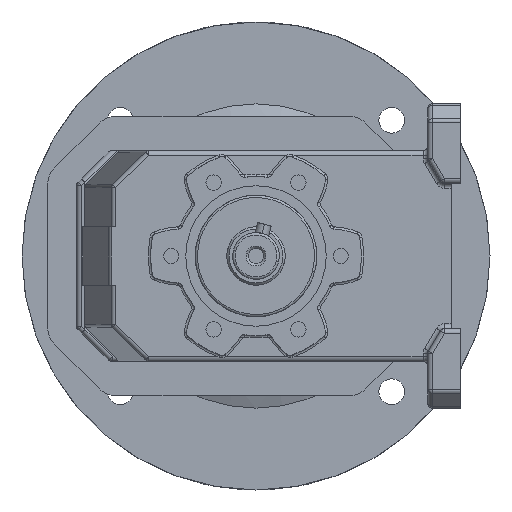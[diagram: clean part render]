
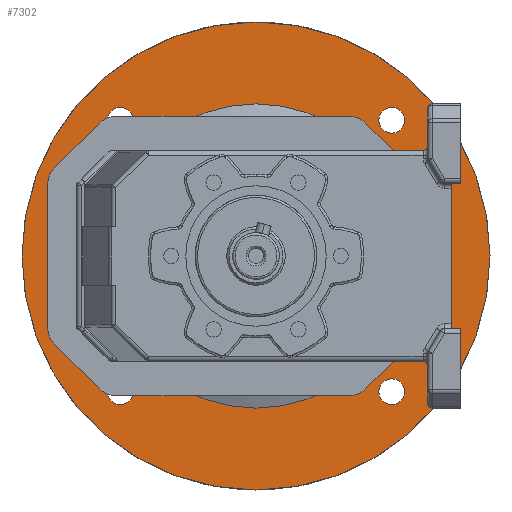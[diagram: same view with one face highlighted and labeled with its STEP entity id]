
A CAD part, left-side view. The second image highlights one B-rep face of the part: STEP entity #7302.
In plain terms, the highlighted planar face has unit normal (-1, 0, 0) as drawn and (0, 1, 0) by its records, which use the part's own axes.
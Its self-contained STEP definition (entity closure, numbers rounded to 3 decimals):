
#150 = FACE_BOUND ( 'NONE', #12729, .T. ) ;
#187 = CIRCLE ( 'NONE', #1056, 65. ) ;
#191 = CARTESIAN_POINT ( 'NONE',  ( -100., 34.115, 0. ) ) ;
#249 = EDGE_LOOP ( 'NONE', ( #5300, #8836 ) ) ;
#618 = EDGE_CURVE ( 'NONE', #8446, #10873, #5231, .T. ) ;
#746 = AXIS2_PLACEMENT_3D ( 'NONE', #3066, #11002, #4206 ) ;
#774 = CARTESIAN_POINT ( 'NONE',  ( 100., 34.115, 0. ) ) ;
#807 = CARTESIAN_POINT ( 'NONE',  ( -57.983, 34.115, 57.983 ) ) ;
#828 = DIRECTION ( 'NONE',  ( 1., 0., 0. ) ) ;
#875 = VERTEX_POINT ( 'NONE', #5192 ) ;
#924 = DIRECTION ( 'NONE',  ( 1., 0., 0. ) ) ;
#959 = AXIS2_PLACEMENT_3D ( 'NONE', #6603, #4294, #828 ) ;
#1056 = AXIS2_PLACEMENT_3D ( 'NONE', #14209, #13751, #12618 ) ;
#1208 = CIRCLE ( 'NONE', #6999, 5.5 ) ;
#1506 = DIRECTION ( 'NONE',  ( 0., -1., 0. ) ) ;
#1641 = DIRECTION ( 'NONE',  ( 0., -1., 0. ) ) ;
#1722 = CARTESIAN_POINT ( 'NONE',  ( 65., 34.115, 0. ) ) ;
#1760 = VERTEX_POINT ( 'NONE', #7069 ) ;
#1887 = CARTESIAN_POINT ( 'NONE',  ( 57.983, 34.115, -57.983 ) ) ;
#1943 = DIRECTION ( 'NONE',  ( 1., 0., 0. ) ) ;
#2484 = DIRECTION ( 'NONE',  ( 0., 1., 0. ) ) ;
#2496 = EDGE_CURVE ( 'NONE', #1760, #6900, #187, .T. ) ;
#2652 = VERTEX_POINT ( 'NONE', #11129 ) ;
#2683 = ORIENTED_EDGE ( 'NONE', *, *, #14371, .T. ) ;
#2798 = AXIS2_PLACEMENT_3D ( 'NONE', #9280, #2484, #10412 ) ;
#3037 = DIRECTION ( 'NONE',  ( 1., 0., 0. ) ) ;
#3053 = DIRECTION ( 'NONE',  ( 0., -1., 0. ) ) ;
#3066 = CARTESIAN_POINT ( 'NONE',  ( 0., 34.115, 0. ) ) ;
#3126 = EDGE_CURVE ( 'NONE', #10373, #4010, #10111, .T. ) ;
#3182 = FACE_BOUND ( 'NONE', #13060, .T. ) ;
#3268 = CARTESIAN_POINT ( 'NONE',  ( 63.483, 34.115, -57.983 ) ) ;
#3278 = EDGE_CURVE ( 'NONE', #4584, #875, #5326, .T. ) ;
#3693 = CIRCLE ( 'NONE', #7003, 5.5 ) ;
#3834 = ORIENTED_EDGE ( 'NONE', *, *, #9747, .T. ) ;
#3961 = EDGE_CURVE ( 'NONE', #8109, #9395, #1208, .T. ) ;
#4010 = VERTEX_POINT ( 'NONE', #12212 ) ;
#4189 = DIRECTION ( 'NONE',  ( 0., -1., 0. ) ) ;
#4206 = DIRECTION ( 'NONE',  ( -1., 0., 0. ) ) ;
#4294 = DIRECTION ( 'NONE',  ( 0., -1., 0. ) ) ;
#4557 = ORIENTED_EDGE ( 'NONE', *, *, #3126, .T. ) ;
#4584 = VERTEX_POINT ( 'NONE', #5470 ) ;
#4750 = EDGE_LOOP ( 'NONE', ( #10331, #12894 ) ) ;
#4781 = EDGE_CURVE ( 'NONE', #6900, #1760, #9996, .T. ) ;
#5192 = CARTESIAN_POINT ( 'NONE',  ( 52.483, 34.115, 57.983 ) ) ;
#5218 = CIRCLE ( 'NONE', #8486, 5.5 ) ;
#5231 = CIRCLE ( 'NONE', #13709, 100. ) ;
#5300 = ORIENTED_EDGE ( 'NONE', *, *, #3961, .T. ) ;
#5326 = CIRCLE ( 'NONE', #12349, 5.5 ) ;
#5361 = CARTESIAN_POINT ( 'NONE',  ( -63.483, 34.115, -57.983 ) ) ;
#5470 = CARTESIAN_POINT ( 'NONE',  ( 63.483, 34.115, 57.983 ) ) ;
#6146 = AXIS2_PLACEMENT_3D ( 'NONE', #807, #8757, #1943 ) ;
#6201 = FACE_BOUND ( 'NONE', #249, .T. ) ;
#6341 = CIRCLE ( 'NONE', #13029, 5.5 ) ;
#6577 = FACE_BOUND ( 'NONE', #14487, .T. ) ;
#6603 = CARTESIAN_POINT ( 'NONE',  ( -57.983, 34.115, -57.983 ) ) ;
#6710 = EDGE_LOOP ( 'NONE', ( #12550, #11374 ) ) ;
#6900 = VERTEX_POINT ( 'NONE', #1722 ) ;
#6999 = AXIS2_PLACEMENT_3D ( 'NONE', #9845, #3053, #10988 ) ;
#7003 = AXIS2_PLACEMENT_3D ( 'NONE', #8307, #1506, #9445 ) ;
#7006 = DIRECTION ( 'NONE',  ( 1., 0., 0. ) ) ;
#7069 = CARTESIAN_POINT ( 'NONE',  ( -65., 34.115, 0. ) ) ;
#7231 = CARTESIAN_POINT ( 'NONE',  ( 0., 34.115, 0. ) ) ;
#7302 = ADVANCED_FACE ( 'NONE', ( #3182, #6577, #6201, #150, #11846, #8876 ), #13667, .F. ) ;
#7508 = DIRECTION ( 'NONE',  ( 0., -1., 0. ) ) ;
#7917 = EDGE_CURVE ( 'NONE', #2652, #10417, #3693, .T. ) ;
#8109 = VERTEX_POINT ( 'NONE', #13059 ) ;
#8152 = CARTESIAN_POINT ( 'NONE',  ( 57.983, 34.115, 57.983 ) ) ;
#8217 = DIRECTION ( 'NONE',  ( -1., 0., 0. ) ) ;
#8307 = CARTESIAN_POINT ( 'NONE',  ( 57.983, 34.115, -57.983 ) ) ;
#8436 = CARTESIAN_POINT ( 'NONE',  ( -57.983, 34.115, -57.983 ) ) ;
#8446 = VERTEX_POINT ( 'NONE', #191 ) ;
#8486 = AXIS2_PLACEMENT_3D ( 'NONE', #10977, #4189, #12110 ) ;
#8601 = CIRCLE ( 'NONE', #6146, 5.5 ) ;
#8709 = ORIENTED_EDGE ( 'NONE', *, *, #3278, .T. ) ;
#8757 = DIRECTION ( 'NONE',  ( 0., -1., 0. ) ) ;
#8836 = ORIENTED_EDGE ( 'NONE', *, *, #11369, .T. ) ;
#8876 = FACE_OUTER_BOUND ( 'NONE', #4750, .T. ) ;
#9182 = CIRCLE ( 'NONE', #746, 100. ) ;
#9280 = CARTESIAN_POINT ( 'NONE',  ( 0., 34.115, 0. ) ) ;
#9395 = VERTEX_POINT ( 'NONE', #12433 ) ;
#9445 = DIRECTION ( 'NONE',  ( 1., 0., 0. ) ) ;
#9580 = DIRECTION ( 'NONE',  ( 1., 0., 0. ) ) ;
#9747 = EDGE_CURVE ( 'NONE', #10417, #2652, #6341, .T. ) ;
#9833 = DIRECTION ( 'NONE',  ( 0., -1., 0. ) ) ;
#9845 = CARTESIAN_POINT ( 'NONE',  ( -57.983, 34.115, 57.983 ) ) ;
#9901 = ORIENTED_EDGE ( 'NONE', *, *, #11890, .T. ) ;
#9996 = CIRCLE ( 'NONE', #2798, 65. ) ;
#10111 = CIRCLE ( 'NONE', #959, 5.5 ) ;
#10144 = AXIS2_PLACEMENT_3D ( 'NONE', #8436, #1641, #9580 ) ;
#10331 = ORIENTED_EDGE ( 'NONE', *, *, #618, .T. ) ;
#10332 = CARTESIAN_POINT ( 'NONE',  ( 100., 34.115, 0. ) ) ;
#10373 = VERTEX_POINT ( 'NONE', #5361 ) ;
#10412 = DIRECTION ( 'NONE',  ( -1., 0., 0. ) ) ;
#10417 = VERTEX_POINT ( 'NONE', #3268 ) ;
#10873 = VERTEX_POINT ( 'NONE', #774 ) ;
#10953 = CIRCLE ( 'NONE', #10144, 5.5 ) ;
#10977 = CARTESIAN_POINT ( 'NONE',  ( 57.983, 34.115, 57.983 ) ) ;
#10988 = DIRECTION ( 'NONE',  ( 1., 0., 0. ) ) ;
#11002 = DIRECTION ( 'NONE',  ( 0., 1., 0. ) ) ;
#11129 = CARTESIAN_POINT ( 'NONE',  ( 52.483, 34.115, -57.983 ) ) ;
#11369 = EDGE_CURVE ( 'NONE', #9395, #8109, #8601, .T. ) ;
#11374 = ORIENTED_EDGE ( 'NONE', *, *, #2496, .F. ) ;
#11596 = AXIS2_PLACEMENT_3D ( 'NONE', #10332, #13713, #7006 ) ;
#11846 = FACE_BOUND ( 'NONE', #6710, .T. ) ;
#11890 = EDGE_CURVE ( 'NONE', #4010, #10373, #10953, .T. ) ;
#12043 = EDGE_CURVE ( 'NONE', #10873, #8446, #9182, .T. ) ;
#12110 = DIRECTION ( 'NONE',  ( 1., 0., 0. ) ) ;
#12138 = DIRECTION ( 'NONE',  ( 0., 1., 0. ) ) ;
#12212 = CARTESIAN_POINT ( 'NONE',  ( -52.483, 34.115, -57.983 ) ) ;
#12239 = ORIENTED_EDGE ( 'NONE', *, *, #7917, .T. ) ;
#12349 = AXIS2_PLACEMENT_3D ( 'NONE', #8152, #7508, #924 ) ;
#12433 = CARTESIAN_POINT ( 'NONE',  ( -63.483, 34.115, 57.983 ) ) ;
#12550 = ORIENTED_EDGE ( 'NONE', *, *, #4781, .F. ) ;
#12618 = DIRECTION ( 'NONE',  ( -1., 0., 0. ) ) ;
#12729 = EDGE_LOOP ( 'NONE', ( #8709, #2683 ) ) ;
#12894 = ORIENTED_EDGE ( 'NONE', *, *, #12043, .T. ) ;
#13029 = AXIS2_PLACEMENT_3D ( 'NONE', #1887, #9833, #3037 ) ;
#13059 = CARTESIAN_POINT ( 'NONE',  ( -52.483, 34.115, 57.983 ) ) ;
#13060 = EDGE_LOOP ( 'NONE', ( #3834, #12239 ) ) ;
#13667 = PLANE ( 'NONE',  #11596 ) ;
#13709 = AXIS2_PLACEMENT_3D ( 'NONE', #7231, #12138, #8217 ) ;
#13713 = DIRECTION ( 'NONE',  ( 0., -1., 0. ) ) ;
#13751 = DIRECTION ( 'NONE',  ( 0., 1., 0. ) ) ;
#14209 = CARTESIAN_POINT ( 'NONE',  ( 0., 34.115, 0. ) ) ;
#14371 = EDGE_CURVE ( 'NONE', #875, #4584, #5218, .T. ) ;
#14487 = EDGE_LOOP ( 'NONE', ( #9901, #4557 ) ) ;
